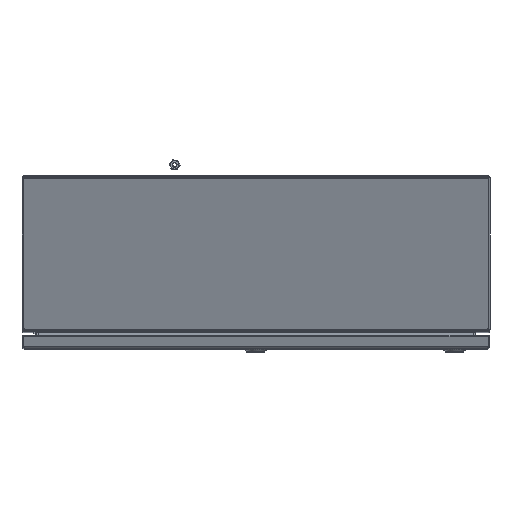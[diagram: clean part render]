
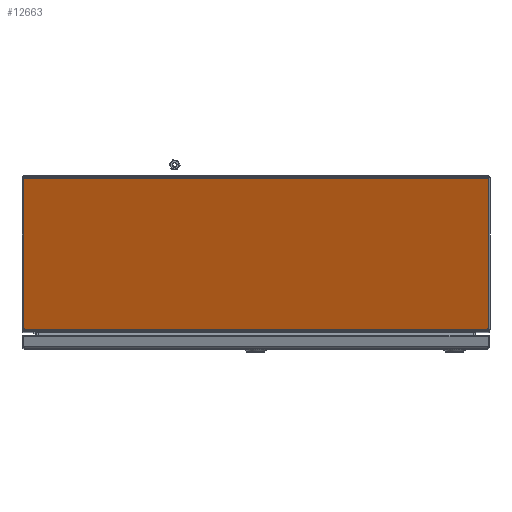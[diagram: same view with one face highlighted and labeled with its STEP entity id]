
A CAD part, top view. The second image highlights one B-rep face of the part: STEP entity #12663.
In plain terms, the highlighted planar face has unit normal (0, -0.342, 0.94).
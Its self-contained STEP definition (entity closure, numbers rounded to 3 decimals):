
#714=B_SPLINE_CURVE_WITH_KNOTS('',3,(#22578,#22579,#22580,#22581),
 .UNSPECIFIED.,.F.,.F.,(4,4),(0.,0.009),.UNSPECIFIED.);
#716=B_SPLINE_CURVE_WITH_KNOTS('',3,(#22642,#22643,#22644,#22645),
 .UNSPECIFIED.,.F.,.F.,(4,4),(0.,0.009),.UNSPECIFIED.);
#4077=ORIENTED_EDGE('',*,*,#6141,.T.);
#4078=ORIENTED_EDGE('',*,*,#6139,.F.);
#4079=ORIENTED_EDGE('',*,*,#6149,.F.);
#4080=ORIENTED_EDGE('',*,*,#6136,.T.);
#4081=ORIENTED_EDGE('',*,*,#6145,.F.);
#4082=ORIENTED_EDGE('',*,*,#6147,.T.);
#4083=ORIENTED_EDGE('',*,*,#6131,.T.);
#4084=ORIENTED_EDGE('',*,*,#6150,.T.);
#6131=EDGE_CURVE('',#7400,#7398,#8526,.F.);
#6136=EDGE_CURVE('',#7402,#7404,#714,.T.);
#6139=EDGE_CURVE('',#7407,#7408,#716,.T.);
#6141=EDGE_CURVE('',#7409,#7408,#8530,.F.);
#6145=EDGE_CURVE('',#7411,#7404,#8534,.F.);
#6147=EDGE_CURVE('',#7411,#7400,#8536,.F.);
#6149=EDGE_CURVE('',#7402,#7407,#8538,.T.);
#6150=EDGE_CURVE('',#7398,#7409,#8539,.F.);
#7398=VERTEX_POINT('',#22501);
#7400=VERTEX_POINT('',#22507);
#7402=VERTEX_POINT('',#22567);
#7404=VERTEX_POINT('',#22577);
#7407=VERTEX_POINT('',#22641);
#7408=VERTEX_POINT('',#22646);
#7409=VERTEX_POINT('',#22653);
#7411=VERTEX_POINT('',#22659);
#8526=LINE('',#22510,#9689);
#8530=LINE('',#22652,#9693);
#8534=LINE('',#22661,#9697);
#8536=LINE('',#22664,#9699);
#8538=LINE('',#22667,#9701);
#8539=LINE('',#22668,#9702);
#9689=VECTOR('',#16269,1000.);
#9693=VECTOR('',#16277,1000.);
#9697=VECTOR('',#16283,1000.);
#9699=VECTOR('',#16287,1000.);
#9701=VECTOR('',#16291,1000.);
#9702=VECTOR('',#16292,1000.);
#10628=EDGE_LOOP('',(#4077,#4078,#4079,#4080,#4081,#4082,#4083,#4084));
#11486=FACE_BOUND('',#10628,.T.);
#11977=PLANE('',#13676);
#12663=ADVANCED_FACE('',(#11486),#11977,.F.);
#13676=AXIS2_PLACEMENT_3D('',#22666,#16289,#16290);
#16269=DIRECTION('',(1.,0.,0.));
#16277=DIRECTION('',(0.,0.94,0.342));
#16283=DIRECTION('',(0.,0.94,0.342));
#16287=DIRECTION('',(1.,0.,0.));
#16289=DIRECTION('',(0.,0.342,-0.94));
#16290=DIRECTION('',(0.,0.94,0.342));
#16291=DIRECTION('',(-1.,0.,0.));
#16292=DIRECTION('',(1.,0.,0.));
#22501=CARTESIAN_POINT('',(-302.057,-1.853,417.248));
#22507=CARTESIAN_POINT('',(302.057,-1.853,417.248));
#22510=CARTESIAN_POINT('',(302.057,-1.853,417.248));
#22567=CARTESIAN_POINT('',(302.057,-199.566,345.286));
#22577=CARTESIAN_POINT('',(302.844,-190.94,348.425));
#22578=CARTESIAN_POINT('',(302.057,-199.566,345.286));
#22579=CARTESIAN_POINT('',(302.319,-196.691,346.332));
#22580=CARTESIAN_POINT('',(302.582,-193.816,347.379));
#22581=CARTESIAN_POINT('',(302.844,-190.94,348.425));
#22641=CARTESIAN_POINT('',(-302.057,-199.566,345.286));
#22642=CARTESIAN_POINT('',(-302.057,-199.566,345.286));
#22643=CARTESIAN_POINT('',(-302.319,-196.691,346.332));
#22644=CARTESIAN_POINT('',(-302.582,-193.816,347.379));
#22645=CARTESIAN_POINT('',(-302.844,-190.94,348.425));
#22646=CARTESIAN_POINT('',(-302.844,-190.94,348.425));
#22652=CARTESIAN_POINT('',(-302.844,-200.168,345.067));
#22653=CARTESIAN_POINT('',(-302.844,-1.853,417.248));
#22659=CARTESIAN_POINT('',(302.844,-1.853,417.248));
#22661=CARTESIAN_POINT('',(302.844,-200.168,345.067));
#22664=CARTESIAN_POINT('',(302.057,-1.853,417.248));
#22666=CARTESIAN_POINT('',(302.057,-200.168,345.067));
#22667=CARTESIAN_POINT('',(302.057,-199.566,345.286));
#22668=CARTESIAN_POINT('',(302.057,-1.853,417.248));
